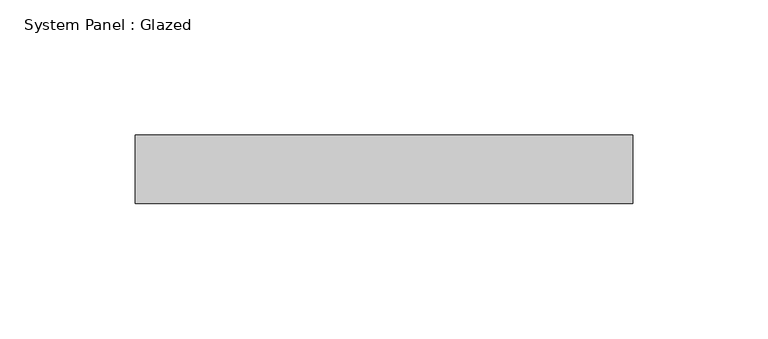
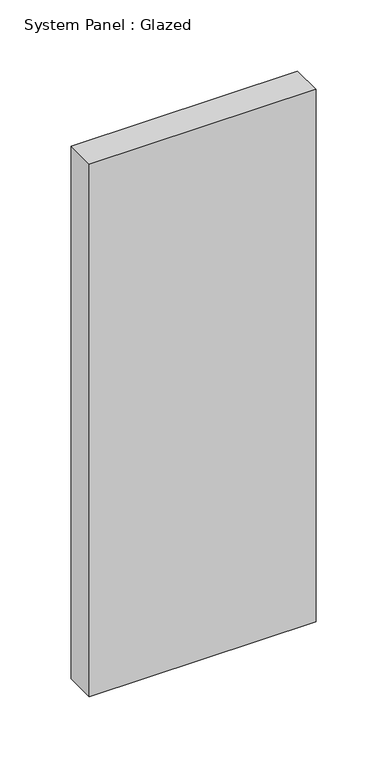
"""IFC4 building model written with IfcOpenShell, lengths in millimetres: plate geometry, System Panel : Glazed."""

from ifc_helpers import new_model, si_unit, origin, origin_with_axes, place, context, project, spatial, polyline, outline, extrude, source, transform, mapped, element, save


def system_panel_glazed_4b8f5c95(model_context):
    return source(origin(), model_context, "Body", "SweptSolid", [
        extrude(outline(polyline([(92.0749998, -44.45), (-92.0749998, -44.45), (-92.0749998, -19.05), (92.0749998, -19.05), (92.0749998, -44.45)])), origin_with_axes(), (0.0, 0.0, 1.0), 457.2),
    ])


if __name__ == "__main__":
    model = new_model("IFC4")
    model_context = context("Model", 3, world=origin())
    ifc_project = project(units=[si_unit("LENGTHUNIT", "METRE", prefix="MILLI")], contexts=[model_context])
    site = spatial("IfcSite", under=ifc_project)
    building = spatial("IfcBuilding", under=site)
    placement = place(None, origin())
    system_panel_glazed_shape = system_panel_glazed_4b8f5c95(model_context)
    element("IfcPlate", 1, ObjectType="System Panel : Glazed", at=placement, inside=building, context=model_context, shape_type="MappedRepresentation", body=[
        mapped(system_panel_glazed_shape, transform((0.0, 0.0, 0.0), x_axis=(1.0, 0.0, 0.0), y_axis=(0.0, 1.0, 0.0), z_axis=(0.0, 0.0, 1.0))),
    ])
    save(model, "model.ifc")
